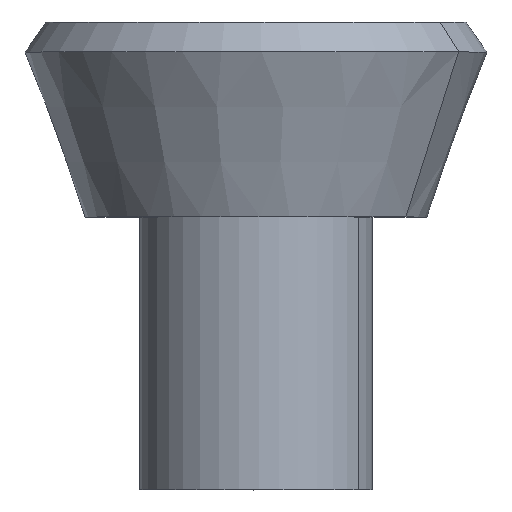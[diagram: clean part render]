
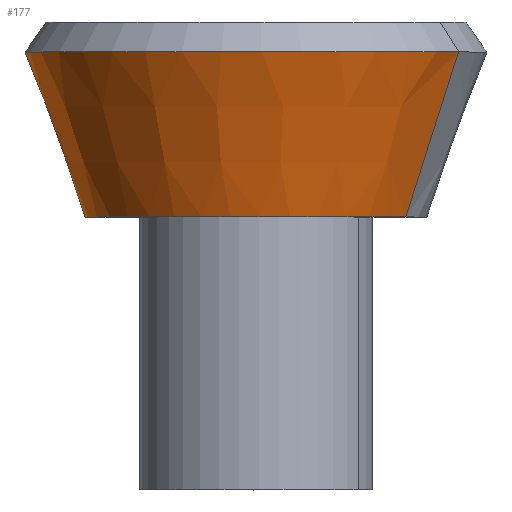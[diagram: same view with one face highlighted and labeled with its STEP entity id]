
A CAD part, top view. The second image highlights one B-rep face of the part: STEP entity #177.
In plain terms, the highlighted conical face has half-angle 20 degrees and reference radius 94 mm.
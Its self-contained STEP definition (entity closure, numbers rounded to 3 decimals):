
#114=CARTESIAN_POINT('Axis2P3D Location',(0.,0.,0.)) ;
#118=CARTESIAN_POINT('Vertex',(82.493,0.,45.066)) ;
#120=CARTESIAN_POINT('Vertex',(-82.493,0.,-45.066)) ;
#147=CARTESIAN_POINT('Axis2P3D Location',(0.,0.,0.)) ;
#152=CARTESIAN_POINT('Line Origine',(96.985,45.371,52.983)) ;
#156=CARTESIAN_POINT('Vertex',(111.477,90.742,60.9)) ;
#159=CARTESIAN_POINT('Axis2P3D Location',(0.,90.742,0.)) ;
#163=CARTESIAN_POINT('Vertex',(-111.477,90.742,-60.9)) ;
#166=CARTESIAN_POINT('Line Origine',(-96.985,45.371,-52.983)) ;
#115=DIRECTION('Axis2P3D Direction',(0.,-1.,0.)) ;
#148=DIRECTION('Axis2P3D Direction',(0.,1.,-0.)) ;
#149=DIRECTION('Axis2P3D XDirection',(0.878,0.,0.479)) ;
#153=DIRECTION('Vector Direction',(0.3,0.94,0.164)) ;
#160=DIRECTION('Axis2P3D Direction',(0.,1.,0.)) ;
#167=DIRECTION('Vector Direction',(-0.3,0.94,-0.164)) ;
#116=AXIS2_PLACEMENT_3D('Circle Axis2P3D',#114,#115,$) ;
#150=AXIS2_PLACEMENT_3D('Cone Axis2P3D',#147,#148,#149) ;
#161=AXIS2_PLACEMENT_3D('Circle Axis2P3D',#159,#160,$) ;
#172=ORIENTED_EDGE('',*,*,#122,.F.) ;
#173=ORIENTED_EDGE('',*,*,#158,.T.) ;
#174=ORIENTED_EDGE('',*,*,#165,.T.) ;
#175=ORIENTED_EDGE('',*,*,#170,.F.) ;
#154=VECTOR('Line Direction',#153,1.) ;
#168=VECTOR('Line Direction',#167,1.) ;
#177=ADVANCED_FACE('PartBody',(#176),#151,.T.) ;
#117=CIRCLE('generated circle',#116,94.) ;
#162=CIRCLE('generated circle',#161,127.027) ;
#151=CONICAL_SURFACE('Cone',#150,94.,0.349) ;
#122=EDGE_CURVE('',#119,#121,#117,.T.) ;
#158=EDGE_CURVE('',#119,#157,#155,.T.) ;
#165=EDGE_CURVE('',#157,#164,#162,.F.) ;
#170=EDGE_CURVE('',#121,#164,#169,.T.) ;
#171=EDGE_LOOP('',(#172,#173,#174,#175)) ;
#176=FACE_OUTER_BOUND('',#171,.T.) ;
#155=LINE('Line',#152,#154) ;
#169=LINE('Line',#166,#168) ;
#119=VERTEX_POINT('',#118) ;
#121=VERTEX_POINT('',#120) ;
#157=VERTEX_POINT('',#156) ;
#164=VERTEX_POINT('',#163) ;
